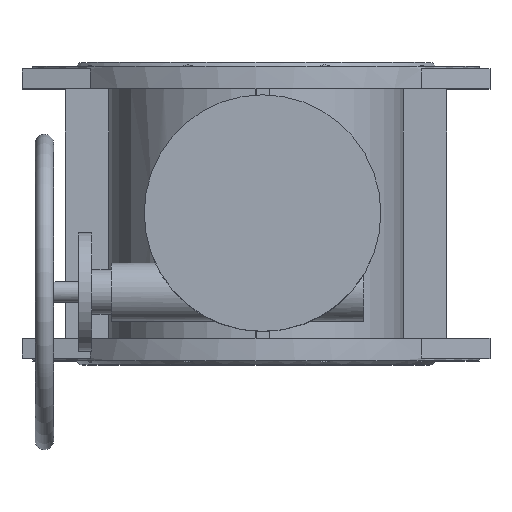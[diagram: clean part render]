
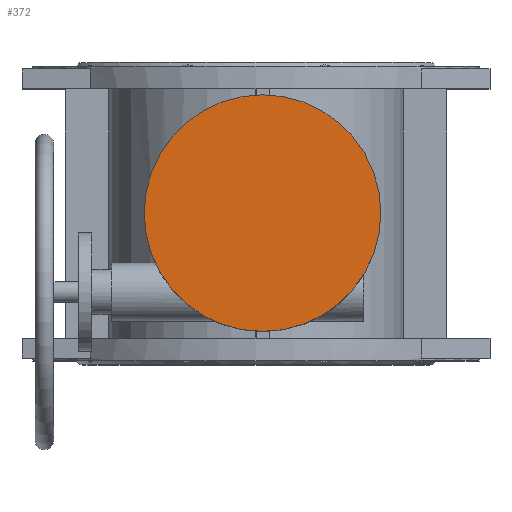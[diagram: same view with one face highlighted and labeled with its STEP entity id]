
A CAD part, top view. The second image highlights one B-rep face of the part: STEP entity #372.
In plain terms, the highlighted planar face has unit normal (0, 0, 1).
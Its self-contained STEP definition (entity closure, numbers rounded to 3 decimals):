
#372=ADVANCED_FACE('',(#1860),#1862,.T.);
#1860=FACE_BOUND('',#1861,.T.);
#1861=EDGE_LOOP('',(#3112));
#1862=PLANE('',#1863);
#1863=AXIS2_PLACEMENT_3D('',#1864,#1865,#1866);
#1864=CARTESIAN_POINT('',(5.,0.,280.));
#1865=DIRECTION('',(0.,0.,1.));
#1866=DIRECTION('',(0.,-1.,0.));
#3112=ORIENTED_EDGE('',*,*,#3739,.T.);
#3739=EDGE_CURVE('',#4185,#4185,#4186,.T.);
#4185=VERTEX_POINT('',#5117);
#4186=CIRCLE('',#5118,90.);
#5117=CARTESIAN_POINT('',(5.,-90.,280.));
#5118=AXIS2_PLACEMENT_3D('',#5119,#5120,#5121);
#5119=CARTESIAN_POINT('',(5.,0.,280.));
#5120=DIRECTION('',(0.,0.,1.));
#5121=DIRECTION('',(0.,-1.,0.));
